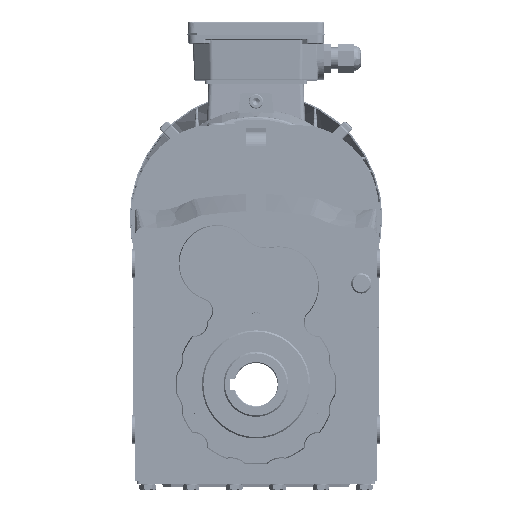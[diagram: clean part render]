
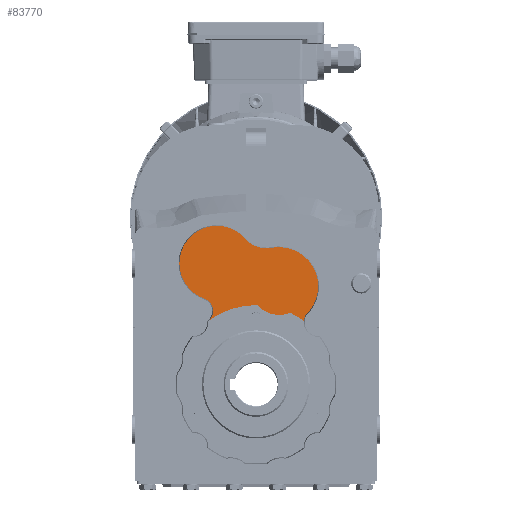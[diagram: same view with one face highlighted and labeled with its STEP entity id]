
A CAD part, top view. The second image highlights one B-rep face of the part: STEP entity #83770.
In plain terms, the highlighted planar face has unit normal (0, 0, 1).
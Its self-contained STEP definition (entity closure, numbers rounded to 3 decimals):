
#4634 = CIRCLE ( 'NONE', #140979, 10. ) ;
#4642 = CIRCLE ( 'NONE', #140962, 26. ) ;
#4680 = CIRCLE ( 'NONE', #140871, 20. ) ;
#4708 = CIRCLE ( 'NONE', #140838, 9. ) ;
#4711 = CIRCLE ( 'NONE', #140806, 27. ) ;
#20929 = CARTESIAN_POINT ( 'NONE',  ( -38.765, 50.924, 105.5 ) ) ;
#20997 = CARTESIAN_POINT ( 'NONE',  ( 43.134, 43.134, 105.5 ) ) ;
#21000 = DIRECTION ( 'NONE',  ( 0., 0., -1. ) ) ;
#21004 = DIRECTION ( 'NONE',  ( 1., 0., 0. ) ) ;
#21027 = DIRECTION ( 'NONE',  ( 0., 0., -1. ) ) ;
#21043 = DIRECTION ( 'NONE',  ( 1., 0., 0. ) ) ;
#21051 = CARTESIAN_POINT ( 'NONE',  ( 36.86, 50.93, 105.5 ) ) ;
#21071 = DIRECTION ( 'NONE',  ( -1., 0., 0. ) ) ;
#21088 = CARTESIAN_POINT ( 'NONE',  ( 37.123, 51.208, 105.5 ) ) ;
#21115 = DIRECTION ( 'NONE',  ( 0., 0., -1. ) ) ;
#21130 = CARTESIAN_POINT ( 'NONE',  ( 36.571, 50.679, 105.5 ) ) ;
#21135 = CARTESIAN_POINT ( 'NONE',  ( -27.121, 83.931, 105.5 ) ) ;
#21148 = CARTESIAN_POINT ( 'NONE',  ( 37.358, 51.509, 105.5 ) ) ;
#21177 = DIRECTION ( 'NONE',  ( 0., 1., 0. ) ) ;
#21193 = DIRECTION ( 'NONE',  ( 0., 0., -1. ) ) ;
#21201 = CARTESIAN_POINT ( 'NONE',  ( 16.079, 68.128, 105.5 ) ) ;
#22352 = CARTESIAN_POINT ( 'NONE',  ( 0., 0., 105.5 ) ) ;
#22362 = DIRECTION ( 'NONE',  ( -1., 0., 0. ) ) ;
#22368 = DIRECTION ( 'NONE',  ( 0., 0., -1. ) ) ;
#22543 = DIRECTION ( 'NONE',  ( 0., 0., -1. ) ) ;
#22546 = DIRECTION ( 'NONE',  ( -1., 0., 0. ) ) ;
#22575 = DIRECTION ( 'NONE',  ( 1., 0., 0. ) ) ;
#22578 = CARTESIAN_POINT ( 'NONE',  ( -43.134, 43.134, 105.5 ) ) ;
#22590 = DIRECTION ( 'NONE',  ( 0., 1., 0. ) ) ;
#22591 = CARTESIAN_POINT ( 'NONE',  ( 0., 0., 105.5 ) ) ;
#22597 = CARTESIAN_POINT ( 'NONE',  ( 16.079, 68.128, 105.5 ) ) ;
#22603 = DIRECTION ( 'NONE',  ( 0., 0., -1. ) ) ;
#22634 = DIRECTION ( 'NONE',  ( 0., 0., -1. ) ) ;
#22648 = CARTESIAN_POINT ( 'NONE',  ( 16.079, 68.128, 105.5 ) ) ;
#22654 = DIRECTION ( 'NONE',  ( 0., 0., 1. ) ) ;
#22656 = DIRECTION ( 'NONE',  ( -1., 0., 0. ) ) ;
#22659 = CARTESIAN_POINT ( 'NONE',  ( 7.41, 114.322, 105.5 ) ) ;
#22662 = DIRECTION ( 'NONE',  ( 0., 0., -1. ) ) ;
#22671 = DIRECTION ( 'NONE',  ( 1., 0., 0. ) ) ;
#22683 = DIRECTION ( 'NONE',  ( 0., 0., -1. ) ) ;
#22687 = CARTESIAN_POINT ( 'NONE',  ( -27.121, 83.931, 105.5 ) ) ;
#22707 = DIRECTION ( 'NONE',  ( 0., 0., -1. ) ) ;
#22709 = DIRECTION ( 'NONE',  ( 0., -1., 0. ) ) ;
#22713 = DIRECTION ( 'NONE',  ( -1., 0., 0. ) ) ;
#22716 = CARTESIAN_POINT ( 'NONE',  ( -38.765, 50.924, 105.5 ) ) ;
#22762 = CARTESIAN_POINT ( 'NONE',  ( 7.41, 114.322, 105.5 ) ) ;
#22836 = DIRECTION ( 'NONE',  ( 0., 0., -1. ) ) ;
#22838 = DIRECTION ( 'NONE',  ( 0., -1., 0. ) ) ;
#22991 = VERTEX_POINT ( 'NONE', #127807 ) ;
#23010 = VERTEX_POINT ( 'NONE', #127751 ) ;
#23019 = VERTEX_POINT ( 'NONE', #127754 ) ;
#24099 = CIRCLE ( 'NONE', #99253, 55. ) ;
#24175 = CIRCLE ( 'NONE', #99307, 20. ) ;
#24339 = CIRCLE ( 'NONE', #99447, 20. ) ;
#24369 = CIRCLE ( 'NONE', #99464, 9. ) ;
#24379 = CIRCLE ( 'NONE', #99386, 10. ) ;
#24395 = CIRCLE ( 'NONE', #99348, 27. ) ;
#24457 = CIRCLE ( 'NONE', #99366, 26. ) ;
#30143 = B_SPLINE_CURVE_WITH_KNOTS ( 'NONE', 3,
 ( #21148, #21088, #21051, #21130 ),
 .UNSPECIFIED., .F., .F.,
 ( 4, 4 ),
 ( 0., 0.001 ),
 .UNSPECIFIED. ) ;
#83770 = ADVANCED_FACE ( 'NONE', ( #124315 ), #126077, .T. ) ;
#89408 = EDGE_CURVE ( 'NONE', #197650, #201637, #4711, .T. ) ;
#89417 = EDGE_CURVE ( 'NONE', #201614, #201604, #4634, .T. ) ;
#89447 = EDGE_CURVE ( 'NONE', #201685, #197618, #4642, .T. ) ;
#89453 = EDGE_CURVE ( 'NONE', #201685, #197642, #4708, .T. ) ;
#89456 = EDGE_CURVE ( 'NONE', #197650, #201679, #4680, .T. ) ;
#99253 = AXIS2_PLACEMENT_3D ( 'NONE', #22591, #22543, #22546 ) ;
#99307 = AXIS2_PLACEMENT_3D ( 'NONE', #22597, #22654, #22656 ) ;
#99321 = AXIS2_PLACEMENT_3D ( 'NONE', #22352, #22368, #22362 ) ;
#99348 = AXIS2_PLACEMENT_3D ( 'NONE', #21201, #21193, #21177 ) ;
#99366 = AXIS2_PLACEMENT_3D ( 'NONE', #21135, #21115, #21071 ) ;
#99386 = AXIS2_PLACEMENT_3D ( 'NONE', #20997, #21000, #21043 ) ;
#99447 = AXIS2_PLACEMENT_3D ( 'NONE', #22762, #22836, #22838 ) ;
#99464 = AXIS2_PLACEMENT_3D ( 'NONE', #20929, #21027, #21004 ) ;
#105568 = CIRCLE ( 'NONE', #99321, 55. ) ;
#124315 = FACE_OUTER_BOUND ( 'NONE', #134264, .T. ) ;
#126070 = CARTESIAN_POINT ( 'NONE',  ( 11.745, 91.225, 105.5 ) ) ;
#126073 = DIRECTION ( 'NONE',  ( 1., 0., 0. ) ) ;
#126077 = PLANE ( 'NONE',  #159851 ) ;
#126151 = DIRECTION ( 'NONE',  ( 0., 0., 1. ) ) ;
#127751 = CARTESIAN_POINT ( 'NONE',  ( 37.358, 51.509, 105.5 ) ) ;
#127754 = CARTESIAN_POINT ( 'NONE',  ( -7.604, 101.108, 105.5 ) ) ;
#127807 = CARTESIAN_POINT ( 'NONE',  ( 36.571, 50.679, 105.5 ) ) ;
#134264 = EDGE_LOOP ( 'NONE', ( #175976, #181669, #181729, #176031, #175999, #175969, #176064, #175998, #176056, #176059, #175955, #175959, #175974, #176066 ) ) ;
#140806 = AXIS2_PLACEMENT_3D ( 'NONE', #22648, #22603, #22590 ) ;
#140838 = AXIS2_PLACEMENT_3D ( 'NONE', #22716, #22662, #22671 ) ;
#140871 = AXIS2_PLACEMENT_3D ( 'NONE', #22659, #22707, #22709 ) ;
#140962 = AXIS2_PLACEMENT_3D ( 'NONE', #22687, #22683, #22713 ) ;
#140979 = AXIS2_PLACEMENT_3D ( 'NONE', #22578, #22634, #22575 ) ;
#158966 = CARTESIAN_POINT ( 'NONE',  ( 23.694, 49.635, 105.5 ) ) ;
#159116 = CARTESIAN_POINT ( 'NONE',  ( 33.161, 43.879, 105.5 ) ) ;
#159147 = CARTESIAN_POINT ( 'NONE',  ( 0.999, 54.991, 105.5 ) ) ;
#159562 = CARTESIAN_POINT ( 'NONE',  ( 16.079, 95.128, 105.5 ) ) ;
#159615 = CARTESIAN_POINT ( 'NONE',  ( -33.162, 43.881, 105.5 ) ) ;
#159617 = CARTESIAN_POINT ( 'NONE',  ( -33.161, 43.879, 105.5 ) ) ;
#159762 = CARTESIAN_POINT ( 'NONE',  ( 7.41, 94.322, 105.5 ) ) ;
#159797 = CARTESIAN_POINT ( 'NONE',  ( -35.771, 59.412, 105.5 ) ) ;
#159851 = AXIS2_PLACEMENT_3D ( 'NONE', #126070, #126151, #126073 ) ;
#162032 = CARTESIAN_POINT ( 'NONE',  ( 11.099, 94.665, 105.5 ) ) ;
#162051 = CARTESIAN_POINT ( 'NONE',  ( -29.765, 50.924, 105.5 ) ) ;
#162063 = CARTESIAN_POINT ( 'NONE',  ( -53.121, 83.931, 105.5 ) ) ;
#175955 = ORIENTED_EDGE ( 'NONE', *, *, #89456, .T. ) ;
#175959 = ORIENTED_EDGE ( 'NONE', *, *, #178984, .T. ) ;
#175969 = ORIENTED_EDGE ( 'NONE', *, *, #178936, .T. ) ;
#175974 = ORIENTED_EDGE ( 'NONE', *, *, #179043, .F. ) ;
#175976 = ORIENTED_EDGE ( 'NONE', *, *, #89453, .T. ) ;
#175998 = ORIENTED_EDGE ( 'NONE', *, *, #179037, .F. ) ;
#175999 = ORIENTED_EDGE ( 'NONE', *, *, #178954, .T. ) ;
#176031 = ORIENTED_EDGE ( 'NONE', *, *, #178907, .T. ) ;
#176056 = ORIENTED_EDGE ( 'NONE', *, *, #179057, .F. ) ;
#176059 = ORIENTED_EDGE ( 'NONE', *, *, #89408, .F. ) ;
#176064 = ORIENTED_EDGE ( 'NONE', *, *, #179034, .T. ) ;
#176066 = ORIENTED_EDGE ( 'NONE', *, *, #89447, .F. ) ;
#178907 = EDGE_CURVE ( 'NONE', #201604, #198203, #105568, .T. ) ;
#178936 = EDGE_CURVE ( 'NONE', #198170, #198239, #24099, .T. ) ;
#178954 = EDGE_CURVE ( 'NONE', #198203, #198170, #24175, .T. ) ;
#178984 = EDGE_CURVE ( 'NONE', #201679, #23019, #24339, .T. ) ;
#179022 = EDGE_CURVE ( 'NONE', #197642, #201614, #24369, .T. ) ;
#179034 = EDGE_CURVE ( 'NONE', #198239, #22991, #24379, .T. ) ;
#179037 = EDGE_CURVE ( 'NONE', #23010, #22991, #30143, .T. ) ;
#179043 = EDGE_CURVE ( 'NONE', #197618, #23019, #24457, .T. ) ;
#179057 = EDGE_CURVE ( 'NONE', #201637, #23010, #24395, .T. ) ;
#181669 = ORIENTED_EDGE ( 'NONE', *, *, #179022, .T. ) ;
#181729 = ORIENTED_EDGE ( 'NONE', *, *, #89417, .T. ) ;
#197618 = VERTEX_POINT ( 'NONE', #162063 ) ;
#197642 = VERTEX_POINT ( 'NONE', #162051 ) ;
#197650 = VERTEX_POINT ( 'NONE', #162032 ) ;
#198170 = VERTEX_POINT ( 'NONE', #158966 ) ;
#198203 = VERTEX_POINT ( 'NONE', #159147 ) ;
#198239 = VERTEX_POINT ( 'NONE', #159116 ) ;
#201604 = VERTEX_POINT ( 'NONE', #159617 ) ;
#201614 = VERTEX_POINT ( 'NONE', #159615 ) ;
#201637 = VERTEX_POINT ( 'NONE', #159562 ) ;
#201679 = VERTEX_POINT ( 'NONE', #159762 ) ;
#201685 = VERTEX_POINT ( 'NONE', #159797 ) ;
